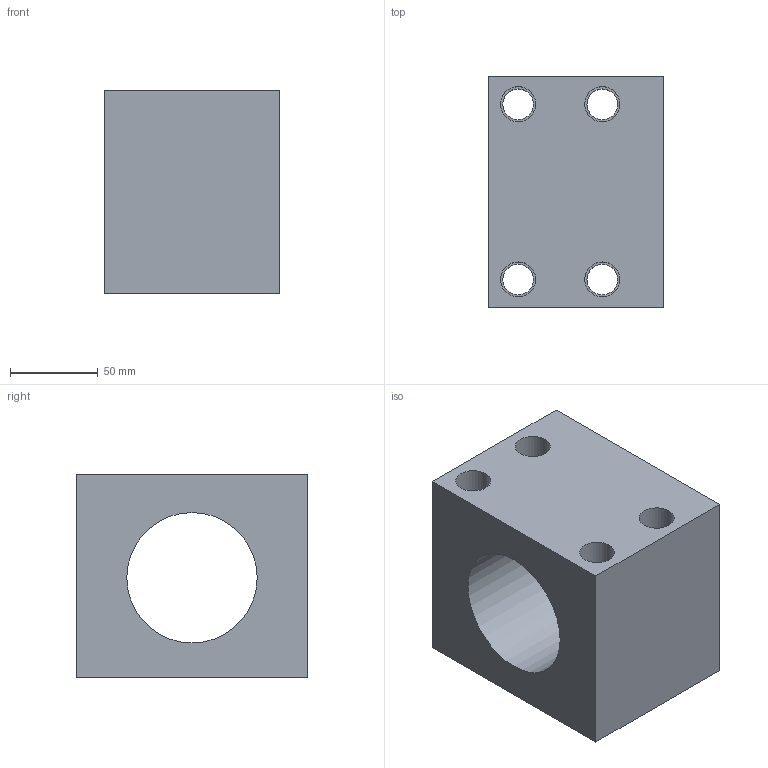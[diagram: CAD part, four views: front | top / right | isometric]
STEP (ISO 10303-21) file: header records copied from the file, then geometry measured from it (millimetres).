
FILE_DESCRIPTION(/* description */ (''),/* implementation_level */ '2;1');
FILE_NAME(/* name */ 'NH50A.stp',/* time_stamp */ '2017-08-19T09:11:47+08:00',/* author */ (''),/* organization */ (''),/* preprocessor_version */ 'ST-DEVELOPER v15',/* originating_system */ 'SIEMENS PLM Software NX 9.0',/* authorisation */ '');
FILE_SCHEMA (('CONFIG_CONTROL_DESIGN'));
Length unit declared in the file: millimetre
Products named in the file (1): NH50A
Bounding box: 100 x 132 x 116 mm (x, y, z)
Volume: 942723.4 mm3; surface area: 124871.7 mm2
Topology: 1 solids, 1 shells, 39 faces, 91 edges, 62 vertices
Faces by surface type: cylinder 19, plane 14, cone 6
Full cylindrical faces by diameter (mm): 8 x6, 17.5 x4, 20 x4, 28 x4, 74.4 x1
Entity records: 994 total; most frequent: DIRECTION 168, CARTESIAN_POINT 142, ORIENTED_EDGE 100, FACE_BOUND 86, EDGE_LOOP 82, AXIS2_PLACEMENT_3D 78, VERTEX_POINT 52, EDGE_CURVE 50
